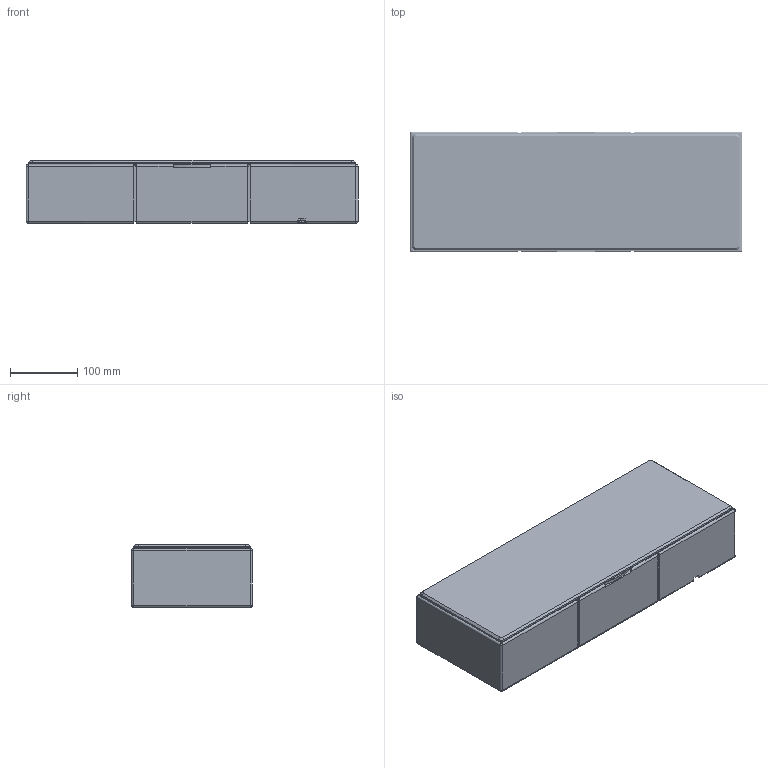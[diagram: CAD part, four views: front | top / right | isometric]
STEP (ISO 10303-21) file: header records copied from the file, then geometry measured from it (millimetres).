
FILE_DESCRIPTION(/* description */ (''),/* implementation_level */ '2;1');
FILE_NAME(/* name */ 'The 6 Passive Narrow Center _A.step',/* time_stamp */ '2024-05-06T08:01:37+02:00',/* author */ (''),/* organization */ (''),/* preprocessor_version */ 'ST-DEVELOPER v20',/* originating_system */ 'Autodesk Translation Framework v12.20.1.177',/* authorisation */ '');
FILE_SCHEMA (('AUTOMOTIVE_DESIGN { 1 0 10303 214 3 1 1 }'));
Products named in the file (3): The 6 Passive Narrow Center _A; CABINET; Grille
Assembly tree (2 placements, depth 2):
  The 6 Passive Narrow Center _A
    CABINET
    Grille
Bounding box: 495 x 180.1 x 94.32 mm (x, y, z)
Volume: 3246189.5 mm3; surface area: 1078618.1 mm2
Topology: 23 solids, 48 shells, 3643 faces, 9937 edges, 6486 vertices
Faces by surface type: plane 2036, cylinder 784, bspline 501, cone 195, torus 100, sphere 27
Full cylindrical faces by diameter (mm): 1 x8, 1.5 x2, 2.5 x164, 3.2 x2, 3.5 x5, 4 x20, 4.2 x4, 4.5 x4, 5.2 x6, 5.5 x4, 6 x1, 6.5 x21, 7.112 x4, 7.3 x4, 7.9 x4, 8 x4, 8.5 x2, 10 x9, 10.3 x8, 10.5 x8, 20 x2, 21.3 x1, 25.38 x3, 25.44 x4, 25.45 x2, 25.55 x2, 26.18 x1, 26.45 x1, 28 x1, 32 x2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
Entity records: 151727 total; most frequent: CARTESIAN_POINT 60458, ORIENTED_EDGE 19806, DIRECTION 17621, EDGE_CURVE 9903, VERTEX_POINT 6490, LINE 6257, VECTOR 6257, AXIS2_PLACEMENT_3D 5682
